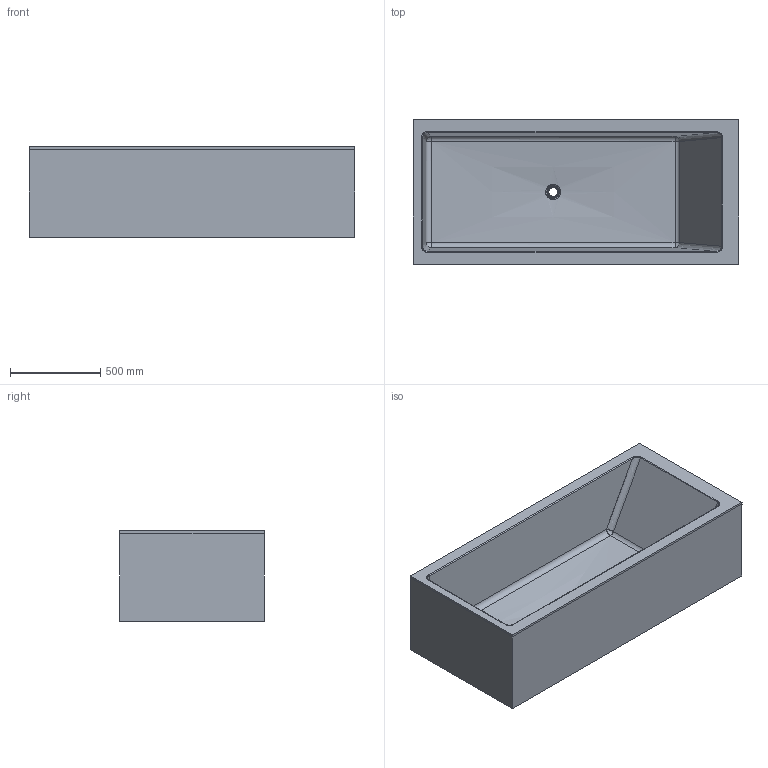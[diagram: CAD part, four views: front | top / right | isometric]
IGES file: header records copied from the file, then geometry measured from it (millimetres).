
Global section: file name: \\Archi-NAS\Comune\X GIOVANNI\LAVABI\VASCHE SQUADRATE CUSTOMIZZABILI\IVORY\3D\IVORY.igs; native system: Rhinoceros ( Feb 23 2021 ); preprocessor: Trout Lake IGES 012 Feb 23 2021; date: 230531.124222; units: millimetre
Bounding box: 1800 x 800 x 500 mm (x, y, z)
Surface area: 8397408.7 mm2 (no closed solid volume)
Topology: 0 solids, 0 shells, 72 faces, 1856 edges, 1836 vertices
Faces by surface type: bspline 72
